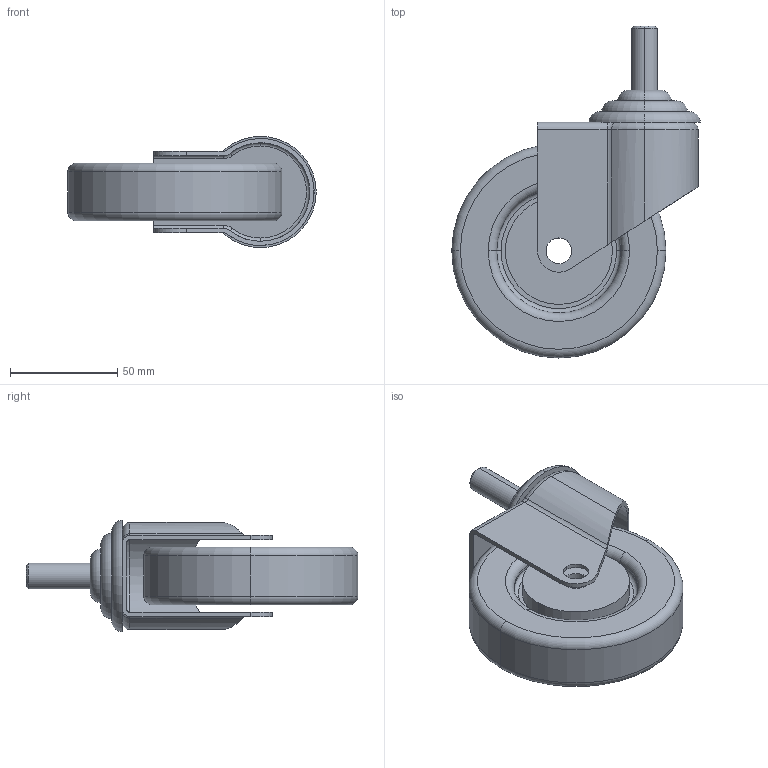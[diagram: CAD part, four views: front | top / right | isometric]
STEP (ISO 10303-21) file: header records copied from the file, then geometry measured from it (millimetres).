
FILE_DESCRIPTION (( 'STEP AP203' ), '1' );
FILE_NAME ('C 10.110 (T) ﾐ鸙韭.STEP', '2013-01-12T09:52:14', ( 'System' ), ( '' ), 'SwSTEP 2.0', 'SolidWorks 2012', '' );
FILE_SCHEMA (( 'CONFIG_CONTROL_DESIGN' ));
Length unit declared in the file: millimetre
Products named in the file (1): C 10.110 (T) ﾐ鸙韭
Bounding box: 116 x 155 x 52 mm (x, y, z)
Volume: 239652.6 mm3; surface area: 61074 mm2
Topology: 6 solids, 6 shells, 86 faces, 184 edges, 114 vertices
Faces by surface type: cylinder 34, torus 28, plane 22, cone 2
Entity records: 2439 total; most frequent: DIRECTION 468, CARTESIAN_POINT 415, ORIENTED_EDGE 368, AXIS2_PLACEMENT_3D 207, EDGE_CURVE 184, CIRCLE 120, VERTEX_POINT 114, EDGE_LOOP 96
